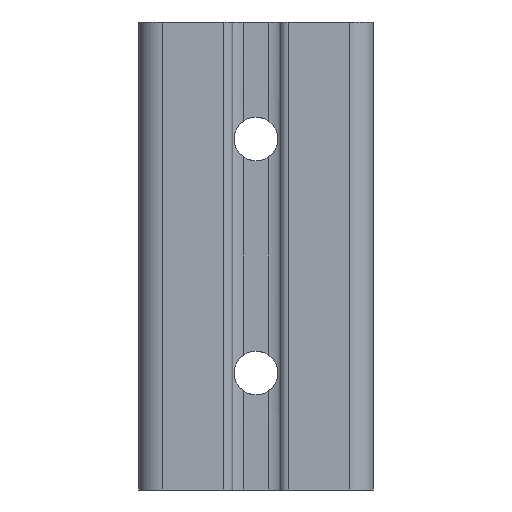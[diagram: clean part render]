
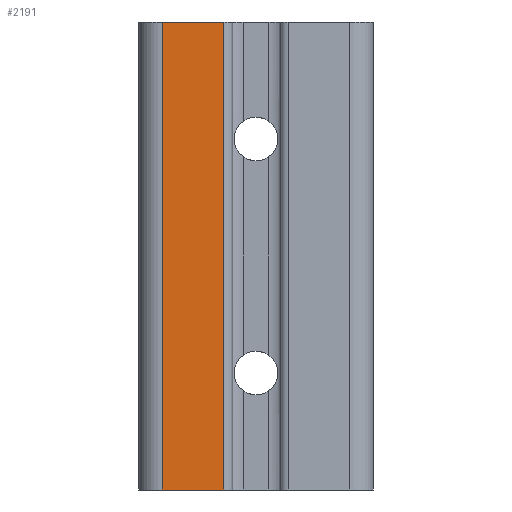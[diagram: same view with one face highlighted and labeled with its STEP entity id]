
A CAD part, front view. The second image highlights one B-rep face of the part: STEP entity #2191.
In plain terms, the highlighted planar face has unit normal (0, -1, 0).
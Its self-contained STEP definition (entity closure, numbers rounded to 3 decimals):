
#131 = ORIENTED_EDGE ( 'NONE', *, *, #450, .T. ) ;
#392 = LINE ( 'NONE', #2957, #1182 ) ;
#450 = EDGE_CURVE ( 'NONE', #1952, #2469, #392, .T. ) ;
#486 = ORIENTED_EDGE ( 'NONE', *, *, #1721, .T. ) ;
#536 = VERTEX_POINT ( 'NONE', #2441 ) ;
#597 = VECTOR ( 'NONE', #2872, 1000. ) ;
#675 = ORIENTED_EDGE ( 'NONE', *, *, #3279, .T. ) ;
#678 = ORIENTED_EDGE ( 'NONE', *, *, #3333, .T. ) ;
#715 = VECTOR ( 'NONE', #3603, 1000. ) ;
#737 = LINE ( 'NONE', #1515, #1073 ) ;
#817 = LINE ( 'NONE', #2936, #597 ) ;
#865 = DIRECTION ( 'NONE',  ( -1., 0., 0. ) ) ;
#1048 = LINE ( 'NONE', #2538, #715 ) ;
#1073 = VECTOR ( 'NONE', #865, 1000. ) ;
#1182 = VECTOR ( 'NONE', #2807, 1000. ) ;
#1365 = FACE_OUTER_BOUND ( 'NONE', #3186, .T. ) ;
#1515 = CARTESIAN_POINT ( 'NONE',  ( 4.5, 0., 80. ) ) ;
#1721 = EDGE_CURVE ( 'NONE', #536, #2173, #737, .T. ) ;
#1739 = DIRECTION ( 'NONE',  ( 0., 0., 1. ) ) ;
#1764 = DIRECTION ( 'NONE',  ( 0., 1., 0. ) ) ;
#1803 = CARTESIAN_POINT ( 'NONE',  ( 0., 0., 0. ) ) ;
#1952 = VERTEX_POINT ( 'NONE', #4171 ) ;
#2090 = PLANE ( 'NONE',  #3459 ) ;
#2173 = VERTEX_POINT ( 'NONE', #3240 ) ;
#2191 = ADVANCED_FACE ( 'NONE', ( #1365 ), #2090, .F. ) ;
#2441 = CARTESIAN_POINT ( 'NONE',  ( 14.5, 0., 80. ) ) ;
#2469 = VERTEX_POINT ( 'NONE', #4420 ) ;
#2538 = CARTESIAN_POINT ( 'NONE',  ( 4., 0., 0. ) ) ;
#2807 = DIRECTION ( 'NONE',  ( 1., 0., 0. ) ) ;
#2872 = DIRECTION ( 'NONE',  ( 0., 0., 1. ) ) ;
#2936 = CARTESIAN_POINT ( 'NONE',  ( 14.5, 0., 0. ) ) ;
#2957 = CARTESIAN_POINT ( 'NONE',  ( 11.084, 0., 0. ) ) ;
#3186 = EDGE_LOOP ( 'NONE', ( #486, #675, #131, #678 ) ) ;
#3240 = CARTESIAN_POINT ( 'NONE',  ( 4., 0., 80. ) ) ;
#3279 = EDGE_CURVE ( 'NONE', #2173, #1952, #1048, .T. ) ;
#3333 = EDGE_CURVE ( 'NONE', #2469, #536, #817, .T. ) ;
#3459 = AXIS2_PLACEMENT_3D ( 'NONE', #1803, #1764, #1739 ) ;
#3603 = DIRECTION ( 'NONE',  ( 0., 0., -1. ) ) ;
#4171 = CARTESIAN_POINT ( 'NONE',  ( 4., 0., 0. ) ) ;
#4420 = CARTESIAN_POINT ( 'NONE',  ( 14.5, 0., 0. ) ) ;
